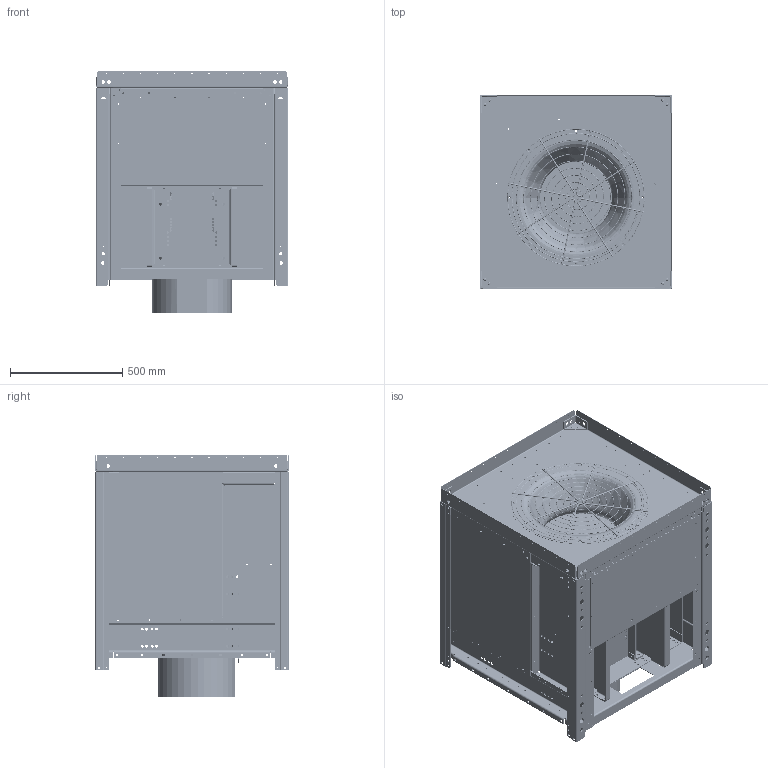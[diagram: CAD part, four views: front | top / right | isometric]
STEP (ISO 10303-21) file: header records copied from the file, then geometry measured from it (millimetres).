
FILE_DESCRIPTION((''),'2;1');
FILE_NAME('058684_200_100_284T_ASM_ASM','2016-08-03T',('cthatcc'),(''),'CREO PARAMETRIC BY PTC INC, 2016050','CREO PARAMETRIC BY PTC INC, 2016050','');
FILE_SCHEMA(('CONFIG_CONTROL_DESIGN'));
Length unit declared in the file: inch
Products named in the file (69): 0575820003_1; 0575830003_1; 0575740007_1; 0575880010_1; 0578340001_1; 057834_MIR_1; 0575820010_MIR_1; 0575990003_MIR_ASM_2_ASM; 0575820010_1; 0575990003_ASM_2_ASM; 0575680008_1; NEMA_284T_TEFC_1; 0575690004_1; 0576650023_1; 0579720002_1; 0579720002_B_1; 0575650004_5; 0575760004_8; 0575880011_1; 057581_1; 0575660008_1; 0575700012_1; 0575790008_1; 0575890007_ASM_1_ASM; 0575660009_1; 0575700013_1; 0575790009_1; 0575890008_ASM_1_ASM; 058559_1; INLETGUARD_200_1; RING_AF_1; RING_AH_1; ROD_200_1; 0576560003_ASM_1_ASM; 0585510014_MIR_1; 0585510014_1; 0585510012_1; 0585510012_MIR_1; 0585560002_1; 0575700011_1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
Assembly tree (182 placements, depth 4):
  058684_200_100_284T_ASM_ASM
    058684_ASM_20_ASM
      0575990003_MIR_ASM_2_ASM
        0575820003_1
        0575830003_1
        0575740007_1
        0575880010_1  x2
        0578340001_1
        057834_MIR_1
        0575820010_MIR_1
      0575990003_ASM_2_ASM
        0575820010_1
        0575820003_1
        0575830003_1
        0575740007_1
        0575880010_1  x2
        0578340001_1
        057834_MIR_1
      0575680008_1
      NEMA_284T_TEFC_1
      0575690004_1
      0576650023_1
      0579720002_1
      0579720002_B_1
      0575650004_5
      0575760004_8
      0575880011_1  x3
      057581_1  x4
      0575890007_ASM_1_ASM
        0575660008_1
        0575700012_1
        0575790008_1
      0575890008_ASM_1_ASM
        0575660009_1
        0575700013_1
        0575790009_1
      058559_1
      0576560003_ASM_1_ASM
        INLETGUARD_200_1
        RING_AF_1
        RING_AH_1
        ROD_200_1  x4
      0585510014_MIR_1
      0585510014_1
      0585510012_1
      0585510012_MIR_1
      0585570002_ASM_4_ASM
        0585560002_1
        0575700011_1
        0579710002_1
      0585580002_ASM_4_ASM
        0585560002_MIR_1
        0575700011_1
        0579710002_MIR_1
      0586070002_1
      0586070002_MIR_9
      WHEEL_DUMMY_200-100_B_1
      058947_1  x3
      HUCK_FASTENER_PROTRUDI_25_8-10_  x8
      TIE_WRAP_1  x2
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Bounding box: 857.25 x 863.6 x 1083.39 mm (x, y, z)
Volume: 176420129.7 mm3; surface area: 21862376.6 mm2
Topology: 173 solids, 173 shells, 4984 faces, 12605 edges, 7982 vertices
Faces by surface type: cylinder 2954, plane 1756, torus 156, bspline 92, cone 26
Entity records: 128492 total; most frequent: CARTESIAN_POINT 34733, DIRECTION 20795, ORIENTED_EDGE 17954, EDGE_CURVE 8977, AXIS2_PLACEMENT_3D 8182, VERTEX_POINT 5636, EDGE_LOOP 5067, VECTOR 4431
